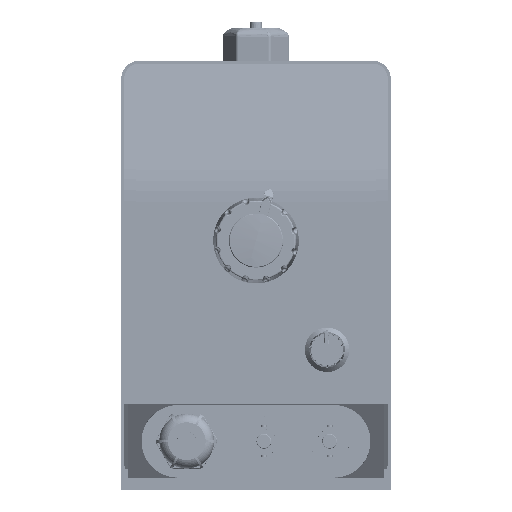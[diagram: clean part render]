
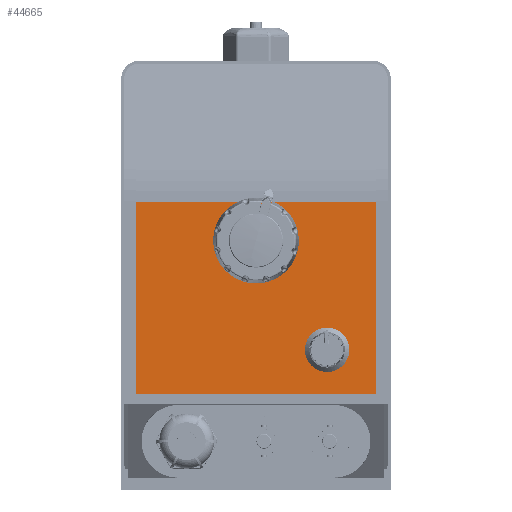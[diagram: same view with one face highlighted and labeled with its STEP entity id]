
A CAD part, top view. The second image highlights one B-rep face of the part: STEP entity #44665.
In plain terms, the highlighted planar face has unit normal (0, 0, 1).
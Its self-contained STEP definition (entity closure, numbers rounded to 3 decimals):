
#4704 = CARTESIAN_POINT ( 'NONE',  ( 7.5, 10.1, 75.3 ) ) ;
#4813 = EDGE_LOOP ( 'NONE', ( #59123, #52421 ) ) ;
#5784 = CARTESIAN_POINT ( 'NONE',  ( -40.5, 23.1, 75.3 ) ) ;
#7528 = EDGE_CURVE ( 'NONE', #105024, #33268, #29728, .T. ) ;
#7832 = CIRCLE ( 'NONE', #39490, 4. ) ;
#11573 = EDGE_CURVE ( 'NONE', #29003, #101086, #42351, .T. ) ;
#13615 = CARTESIAN_POINT ( 'NONE',  ( 40.5, 28.545, 75.3 ) ) ;
#15684 = AXIS2_PLACEMENT_3D ( 'NONE', #80473, #30373, #88917 ) ;
#16697 = EDGE_CURVE ( 'NONE', #33268, #105024, #62328, .T. ) ;
#18501 = EDGE_CURVE ( 'NONE', #99077, #29003, #25447, .T. ) ;
#18635 = FACE_OUTER_BOUND ( 'NONE', #101782, .T. ) ;
#21755 = CARTESIAN_POINT ( 'NONE',  ( -40.5, -41.6, 75.3 ) ) ;
#23159 = EDGE_CURVE ( 'NONE', #62890, #59636, #7832, .T. ) ;
#25447 = LINE ( 'NONE', #13615, #64637 ) ;
#27839 = AXIS2_PLACEMENT_3D ( 'NONE', #85827, #102571, #52485 ) ;
#29003 = VERTEX_POINT ( 'NONE', #61950 ) ;
#29728 = CIRCLE ( 'NONE', #64883, 7.5 ) ;
#30373 = DIRECTION ( 'NONE',  ( 0., 0., -1. ) ) ;
#31323 = EDGE_LOOP ( 'NONE', ( #94411, #72480 ) ) ;
#31360 = LINE ( 'NONE', #104799, #73210 ) ;
#31609 = EDGE_CURVE ( 'NONE', #91885, #101086, #105210, .T. ) ;
#33268 = VERTEX_POINT ( 'NONE', #62501 ) ;
#35608 = FACE_BOUND ( 'NONE', #31323, .T. ) ;
#35885 = VECTOR ( 'NONE', #55574, 1000. ) ;
#38085 = DIRECTION ( 'NONE',  ( 0., 0., -1. ) ) ;
#38940 = ORIENTED_EDGE ( 'NONE', *, *, #39015, .T. ) ;
#38981 = AXIS2_PLACEMENT_3D ( 'NONE', #88187, #38085, #96554 ) ;
#38984 = CARTESIAN_POINT ( 'NONE',  ( 0., 10.1, 75.3 ) ) ;
#39015 = EDGE_CURVE ( 'NONE', #91885, #99077, #31360, .T. ) ;
#39490 = AXIS2_PLACEMENT_3D ( 'NONE', #44425, #102926, #52815 ) ;
#42351 = LINE ( 'NONE', #5784, #64555 ) ;
#44425 = CARTESIAN_POINT ( 'NONE',  ( 24., -26.75, 75.3 ) ) ;
#44665 = ADVANCED_FACE ( 'NONE', ( #35608, #57802, #18635 ), #94223, .F. ) ;
#47369 = DIRECTION ( 'NONE',  ( -1., 0., 0. ) ) ;
#50971 = CARTESIAN_POINT ( 'NONE',  ( 40.5, -41.6, 75.3 ) ) ;
#52421 = ORIENTED_EDGE ( 'NONE', *, *, #65462, .T. ) ;
#52485 = DIRECTION ( 'NONE',  ( -1., 0., 0. ) ) ;
#52815 = DIRECTION ( 'NONE',  ( -1., 0., 0. ) ) ;
#54589 = CARTESIAN_POINT ( 'NONE',  ( 20., -26.75, 75.3 ) ) ;
#55134 = DIRECTION ( 'NONE',  ( -1., 0., 0. ) ) ;
#55574 = DIRECTION ( 'NONE',  ( 0., 1., 0. ) ) ;
#57802 = FACE_BOUND ( 'NONE', #4813, .T. ) ;
#58030 = CARTESIAN_POINT ( 'NONE',  ( 28., -26.75, 75.3 ) ) ;
#59123 = ORIENTED_EDGE ( 'NONE', *, *, #23159, .T. ) ;
#59636 = VERTEX_POINT ( 'NONE', #58030 ) ;
#61950 = CARTESIAN_POINT ( 'NONE',  ( 40.5, 23.1, 75.3 ) ) ;
#62328 = CIRCLE ( 'NONE', #38981, 7.5 ) ;
#62501 = CARTESIAN_POINT ( 'NONE',  ( -7.5, 10.1, 75.3 ) ) ;
#62890 = VERTEX_POINT ( 'NONE', #54589 ) ;
#64555 = VECTOR ( 'NONE', #55134, 1000. ) ;
#64637 = VECTOR ( 'NONE', #80515, 1000. ) ;
#64883 = AXIS2_PLACEMENT_3D ( 'NONE', #38984, #97471, #47369 ) ;
#65462 = EDGE_CURVE ( 'NONE', #59636, #62890, #93882, .T. ) ;
#68743 = ORIENTED_EDGE ( 'NONE', *, *, #18501, .T. ) ;
#72480 = ORIENTED_EDGE ( 'NONE', *, *, #7528, .T. ) ;
#73210 = VECTOR ( 'NONE', #96022, 1000. ) ;
#73996 = CARTESIAN_POINT ( 'NONE',  ( -40.5, 23.1, 75.3 ) ) ;
#80106 = ORIENTED_EDGE ( 'NONE', *, *, #31609, .F. ) ;
#80473 = CARTESIAN_POINT ( 'NONE',  ( 24., -26.75, 75.3 ) ) ;
#80515 = DIRECTION ( 'NONE',  ( 0., 1., 0. ) ) ;
#83167 = ORIENTED_EDGE ( 'NONE', *, *, #11573, .T. ) ;
#85827 = CARTESIAN_POINT ( 'NONE',  ( -40.5, 28.545, 75.3 ) ) ;
#88187 = CARTESIAN_POINT ( 'NONE',  ( 0., 10.1, 75.3 ) ) ;
#88917 = DIRECTION ( 'NONE',  ( -1., 0., 0. ) ) ;
#91885 = VERTEX_POINT ( 'NONE', #21755 ) ;
#93882 = CIRCLE ( 'NONE', #15684, 4. ) ;
#94223 = PLANE ( 'NONE',  #27839 ) ;
#94411 = ORIENTED_EDGE ( 'NONE', *, *, #16697, .T. ) ;
#96022 = DIRECTION ( 'NONE',  ( 1., 0., 0. ) ) ;
#96554 = DIRECTION ( 'NONE',  ( -1., 0., 0. ) ) ;
#97471 = DIRECTION ( 'NONE',  ( 0., 0., -1. ) ) ;
#99077 = VERTEX_POINT ( 'NONE', #50971 ) ;
#101086 = VERTEX_POINT ( 'NONE', #73996 ) ;
#101782 = EDGE_LOOP ( 'NONE', ( #68743, #83167, #80106, #38940 ) ) ;
#102571 = DIRECTION ( 'NONE',  ( 0., 0., -1. ) ) ;
#102926 = DIRECTION ( 'NONE',  ( 0., 0., -1. ) ) ;
#104799 = CARTESIAN_POINT ( 'NONE',  ( -40.5, -41.6, 75.3 ) ) ;
#105024 = VERTEX_POINT ( 'NONE', #4704 ) ;
#105210 = LINE ( 'NONE', #105694, #35885 ) ;
#105694 = CARTESIAN_POINT ( 'NONE',  ( -40.5, 28.545, 75.3 ) ) ;
